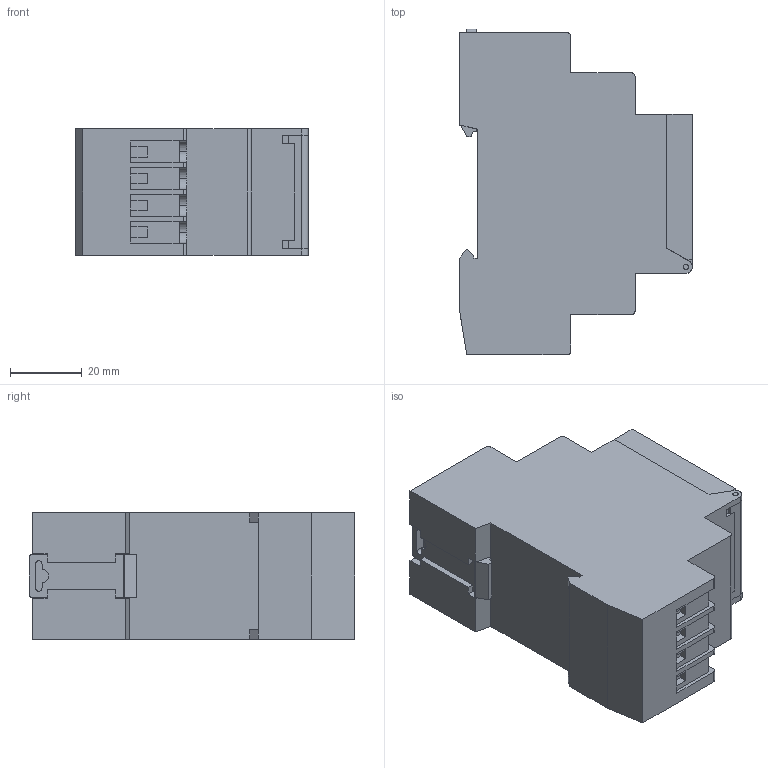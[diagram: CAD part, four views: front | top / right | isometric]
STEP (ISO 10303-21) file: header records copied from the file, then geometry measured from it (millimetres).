
FILE_DESCRIPTION (( 'STEP AP203' ), '1' );
FILE_NAME ('Ðåãóëÿòîð òåìïåðàòóðû öèôðîâîé RD-ZG.STEP', '2021-11-25T20:45:27', ( '' ), ( '' ), 'SwSTEP 2.0', 'SolidWorks 2017', '' );
FILE_SCHEMA (( 'CONFIG_CONTROL_DESIGN' ));
Length unit declared in the file: millimetre
Products named in the file (1): Ðåãóëÿòîð òåìïåðàòóðû öèôðîâîé RD-ZG
Bounding box: 65 x 91 x 35.4 mm (x, y, z)
Volume: 151686.2 mm3; surface area: 27721.8 mm2
Topology: 15 solids, 15 shells, 464 faces, 1257 edges, 833 vertices
Faces by surface type: plane 336, cylinder 108, cone 12, torus 8
Entity records: 14614 total; most frequent: CARTESIAN_POINT 2555, ORIENTED_EDGE 2514, DIRECTION 2443, EDGE_CURVE 1257, LINE 1001, VECTOR 1001, VERTEX_POINT 833, AXIS2_PLACEMENT_3D 721
